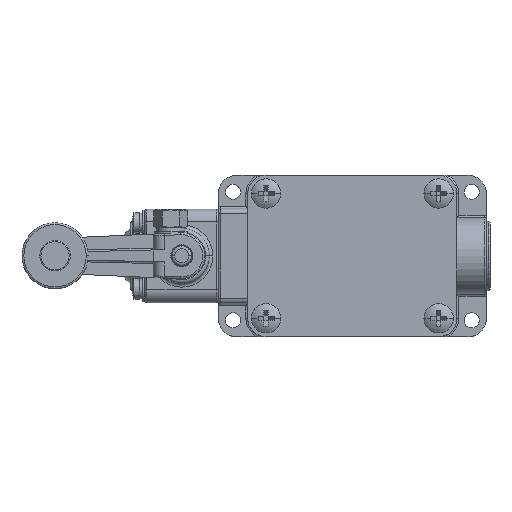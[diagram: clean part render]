
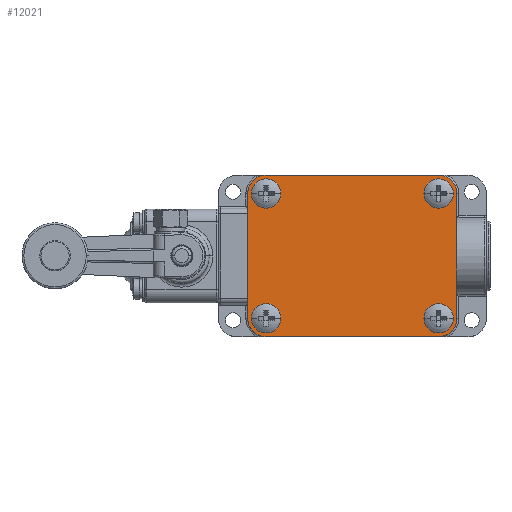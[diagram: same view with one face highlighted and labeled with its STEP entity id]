
A CAD part, top view. The second image highlights one B-rep face of the part: STEP entity #12021.
In plain terms, the highlighted planar face has unit normal (0, 0, 1).
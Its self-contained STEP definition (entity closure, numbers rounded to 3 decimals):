
#3244=DIRECTION('',(1.,0.,0.));
#3245=VECTOR('',#3244,47.);
#3246=CARTESIAN_POINT('',(-23.5,-22.,27.8));
#3247=LINE('',#3246,#3245);
#3268=CARTESIAN_POINT('',(23.5,-17.,27.8));
#3269=DIRECTION('',(0.,0.,1.));
#3270=DIRECTION('',(0.,-1.,0.));
#3271=AXIS2_PLACEMENT_3D('',#3268,#3269,#3270);
#3273=CARTESIAN_POINT('',(-23.5,-17.,27.8));
#3274=DIRECTION('',(0.,0.,1.));
#3275=DIRECTION('',(-1.,0.,0.));
#3276=AXIS2_PLACEMENT_3D('',#3273,#3274,#3275);
#3278=CARTESIAN_POINT('',(-23.5,17.,27.8));
#3279=DIRECTION('',(0.,0.,1.));
#3280=DIRECTION('',(0.,1.,0.));
#3281=AXIS2_PLACEMENT_3D('',#3278,#3279,#3280);
#3283=CARTESIAN_POINT('',(23.5,17.,27.8));
#3284=DIRECTION('',(0.,0.,1.));
#3285=DIRECTION('',(1.,0.,0.));
#3286=AXIS2_PLACEMENT_3D('',#3283,#3284,#3285);
#3474=CARTESIAN_POINT('',(23.5,17.,27.8));
#3475=DIRECTION('',(0.,0.,-1.));
#3476=DIRECTION('',(-1.,0.,0.));
#3477=AXIS2_PLACEMENT_3D('',#3474,#3475,#3476);
#3479=CARTESIAN_POINT('',(23.5,17.,27.8));
#3480=DIRECTION('',(0.,0.,-1.));
#3481=DIRECTION('',(1.,0.,0.));
#3482=AXIS2_PLACEMENT_3D('',#3479,#3480,#3481);
#3678=CARTESIAN_POINT('',(23.5,-17.,27.8));
#3679=DIRECTION('',(0.,0.,-1.));
#3680=DIRECTION('',(-1.,0.,0.));
#3681=AXIS2_PLACEMENT_3D('',#3678,#3679,#3680);
#3683=CARTESIAN_POINT('',(23.5,-17.,27.8));
#3684=DIRECTION('',(0.,0.,-1.));
#3685=DIRECTION('',(1.,0.,0.));
#3686=AXIS2_PLACEMENT_3D('',#3683,#3684,#3685);
#3882=CARTESIAN_POINT('',(-23.5,17.,27.8));
#3883=DIRECTION('',(0.,0.,-1.));
#3884=DIRECTION('',(-1.,0.,0.));
#3885=AXIS2_PLACEMENT_3D('',#3882,#3883,#3884);
#3887=CARTESIAN_POINT('',(-23.5,17.,27.8));
#3888=DIRECTION('',(0.,0.,-1.));
#3889=DIRECTION('',(1.,0.,0.));
#3890=AXIS2_PLACEMENT_3D('',#3887,#3888,#3889);
#4086=CARTESIAN_POINT('',(-23.5,-17.,27.8));
#4087=DIRECTION('',(0.,0.,-1.));
#4088=DIRECTION('',(-1.,0.,0.));
#4089=AXIS2_PLACEMENT_3D('',#4086,#4087,#4088);
#4091=CARTESIAN_POINT('',(-23.5,-17.,27.8));
#4092=DIRECTION('',(0.,0.,-1.));
#4093=DIRECTION('',(1.,0.,0.));
#4094=AXIS2_PLACEMENT_3D('',#4091,#4092,#4093);
#4108=DIRECTION('',(0.,1.,0.));
#4109=VECTOR('',#4108,34.);
#4110=CARTESIAN_POINT('',(28.5,-17.,27.8));
#4111=LINE('',#4110,#4109);
#4384=DIRECTION('',(-1.,0.,0.));
#4385=VECTOR('',#4384,47.);
#4386=CARTESIAN_POINT('',(23.5,22.,27.8));
#4387=LINE('',#4386,#4385);
#4413=DIRECTION('',(0.,-1.,0.));
#4414=VECTOR('',#4413,34.);
#4415=CARTESIAN_POINT('',(-28.5,17.,27.8));
#4416=LINE('',#4415,#4414);
#8507=CARTESIAN_POINT('',(-27.5,-17.,27.8));
#8508=CARTESIAN_POINT('',(-19.5,-17.,27.8));
#8509=VERTEX_POINT('',#8507);
#8510=VERTEX_POINT('',#8508);
#8511=CARTESIAN_POINT('',(-27.5,17.,27.8));
#8512=CARTESIAN_POINT('',(-19.5,17.,27.8));
#8513=VERTEX_POINT('',#8511);
#8514=VERTEX_POINT('',#8512);
#8515=CARTESIAN_POINT('',(19.5,-17.,27.8));
#8516=CARTESIAN_POINT('',(27.5,-17.,27.8));
#8517=VERTEX_POINT('',#8515);
#8518=VERTEX_POINT('',#8516);
#8519=CARTESIAN_POINT('',(19.5,17.,27.8));
#8520=CARTESIAN_POINT('',(27.5,17.,27.8));
#8521=VERTEX_POINT('',#8519);
#8522=VERTEX_POINT('',#8520);
#8875=CARTESIAN_POINT('',(23.5,-22.,27.8));
#8876=CARTESIAN_POINT('',(28.5,-17.,27.8));
#8877=VERTEX_POINT('',#8875);
#8878=VERTEX_POINT('',#8876);
#8879=CARTESIAN_POINT('',(28.5,17.,27.8));
#8880=CARTESIAN_POINT('',(23.5,22.,27.8));
#8881=VERTEX_POINT('',#8879);
#8882=VERTEX_POINT('',#8880);
#8883=CARTESIAN_POINT('',(-23.5,22.,27.8));
#8884=CARTESIAN_POINT('',(-28.5,17.,27.8));
#8885=VERTEX_POINT('',#8883);
#8886=VERTEX_POINT('',#8884);
#8887=CARTESIAN_POINT('',(-28.5,-17.,27.8));
#8888=CARTESIAN_POINT('',(-23.5,-22.,27.8));
#8889=VERTEX_POINT('',#8887);
#8890=VERTEX_POINT('',#8888);
#11975=CARTESIAN_POINT('',(0.,0.,27.8));
#11976=DIRECTION('',(0.,0.,-1.));
#11977=DIRECTION('',(0.,-1.,0.));
#11978=AXIS2_PLACEMENT_3D('',#11975,#11976,#11977);
#11979=PLANE('',#11978);
#11981=ORIENTED_EDGE('',*,*,#11980,.F.);
#11983=ORIENTED_EDGE('',*,*,#11982,.F.);
#11984=ORIENTED_EDGE('',*,*,#11825,.F.);
#11986=ORIENTED_EDGE('',*,*,#11985,.F.);
#11988=ORIENTED_EDGE('',*,*,#11987,.F.);
#11990=ORIENTED_EDGE('',*,*,#11989,.F.);
#11992=ORIENTED_EDGE('',*,*,#11991,.F.);
#11994=ORIENTED_EDGE('',*,*,#11993,.F.);
#11995=EDGE_LOOP('',(#11981,#11983,#11984,#11986,#11988,#11990,#11992,#11994));
#11996=FACE_OUTER_BOUND('',#11995,.F.);
#11998=ORIENTED_EDGE('',*,*,#11997,.F.);
#12000=ORIENTED_EDGE('',*,*,#11999,.F.);
#12001=EDGE_LOOP('',(#11998,#12000));
#12002=FACE_BOUND('',#12001,.F.);
#12004=ORIENTED_EDGE('',*,*,#12003,.F.);
#12006=ORIENTED_EDGE('',*,*,#12005,.F.);
#12007=EDGE_LOOP('',(#12004,#12006));
#12008=FACE_BOUND('',#12007,.F.);
#12010=ORIENTED_EDGE('',*,*,#12009,.F.);
#12012=ORIENTED_EDGE('',*,*,#12011,.F.);
#12013=EDGE_LOOP('',(#12010,#12012));
#12014=FACE_BOUND('',#12013,.F.);
#12016=ORIENTED_EDGE('',*,*,#12015,.F.);
#12018=ORIENTED_EDGE('',*,*,#12017,.F.);
#12019=EDGE_LOOP('',(#12016,#12018));
#12020=FACE_BOUND('',#12019,.F.);
#12021=ADVANCED_FACE('',(#11996,#12002,#12008,#12014,#12020),#11979,.F.);
#3272=CIRCLE('',#3271,5.);
#3277=CIRCLE('',#3276,5.);
#3282=CIRCLE('',#3281,5.);
#3287=CIRCLE('',#3286,5.);
#3478=CIRCLE('',#3477,4.);
#3483=CIRCLE('',#3482,4.);
#3682=CIRCLE('',#3681,4.);
#3687=CIRCLE('',#3686,4.);
#3886=CIRCLE('',#3885,4.);
#3891=CIRCLE('',#3890,4.);
#4090=CIRCLE('',#4089,4.);
#4095=CIRCLE('',#4094,4.);
#11825=EDGE_CURVE('',#8890,#8877,#3247,.T.);
#11980=EDGE_CURVE('',#8878,#8881,#4111,.T.);
#11982=EDGE_CURVE('',#8877,#8878,#3272,.T.);
#11985=EDGE_CURVE('',#8889,#8890,#3277,.T.);
#11987=EDGE_CURVE('',#8886,#8889,#4416,.T.);
#11989=EDGE_CURVE('',#8885,#8886,#3282,.T.);
#11991=EDGE_CURVE('',#8882,#8885,#4387,.T.);
#11993=EDGE_CURVE('',#8881,#8882,#3287,.T.);
#11997=EDGE_CURVE('',#8509,#8510,#4090,.T.);
#11999=EDGE_CURVE('',#8510,#8509,#4095,.T.);
#12003=EDGE_CURVE('',#8513,#8514,#3886,.T.);
#12005=EDGE_CURVE('',#8514,#8513,#3891,.T.);
#12009=EDGE_CURVE('',#8517,#8518,#3682,.T.);
#12011=EDGE_CURVE('',#8518,#8517,#3687,.T.);
#12015=EDGE_CURVE('',#8521,#8522,#3478,.T.);
#12017=EDGE_CURVE('',#8522,#8521,#3483,.T.);
